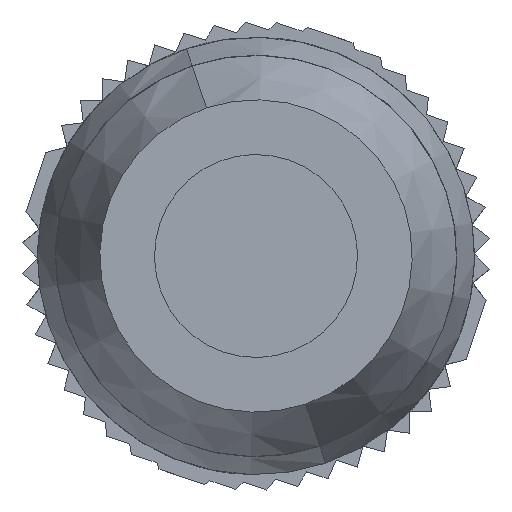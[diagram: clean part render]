
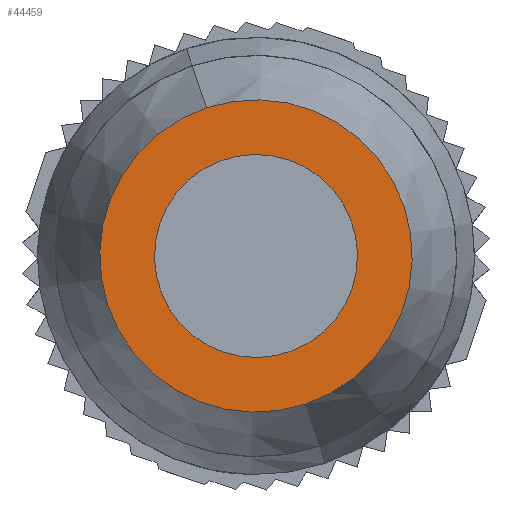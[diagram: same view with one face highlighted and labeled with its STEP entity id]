
A CAD part, left-side view. The second image highlights one B-rep face of the part: STEP entity #44459.
In plain terms, the highlighted planar face has unit normal (-1, 0, 0).
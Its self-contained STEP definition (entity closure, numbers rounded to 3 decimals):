
#2898 = VERTEX_POINT ( 'NONE', #18351 ) ;
#3109 = ORIENTED_EDGE ( 'NONE', *, *, #42784, .F. ) ;
#3540 = ORIENTED_EDGE ( 'NONE', *, *, #51324, .T. ) ;
#6818 = DIRECTION ( 'NONE',  ( 0., 0.318, 0.948 ) ) ;
#7232 = CARTESIAN_POINT ( 'NONE',  ( -11.925, 0., 0. ) ) ;
#7342 = CARTESIAN_POINT ( 'NONE',  ( -11.925, 0., 0. ) ) ;
#8287 = DIRECTION ( 'NONE',  ( 0., -0.318, -0.948 ) ) ;
#15634 = ORIENTED_EDGE ( 'NONE', *, *, #45734, .F. ) ;
#16002 = CARTESIAN_POINT ( 'NONE',  ( -11.925, 1.589, 4.741 ) ) ;
#16057 = CARTESIAN_POINT ( 'NONE',  ( -11.925, 0., 0. ) ) ;
#16093 = ORIENTED_EDGE ( 'NONE', *, *, #43251, .T. ) ;
#18351 = CARTESIAN_POINT ( 'NONE',  ( -11.925, -3.249, 0.084 ) ) ;
#18997 = AXIS2_PLACEMENT_3D ( 'NONE', #7342, #48411, #6818 ) ;
#19227 = PLANE ( 'NONE',  #27671 ) ;
#23081 = CIRCLE ( 'NONE', #45541, 3.25 ) ;
#24973 = VERTEX_POINT ( 'NONE', #16002 ) ;
#26916 = CARTESIAN_POINT ( 'NONE',  ( -11.925, 0., 0. ) ) ;
#27671 = AXIS2_PLACEMENT_3D ( 'NONE', #7232, #40409, #8287 ) ;
#28191 = DIRECTION ( 'NONE',  ( 1., 0., 0. ) ) ;
#28401 = CARTESIAN_POINT ( 'NONE',  ( -11.925, -1.589, -4.741 ) ) ;
#28454 = CIRCLE ( 'NONE', #18997, 5. ) ;
#28930 = VERTEX_POINT ( 'NONE', #46619 ) ;
#29794 = CARTESIAN_POINT ( 'NONE',  ( -11.925, 0., 0. ) ) ;
#31873 = CIRCLE ( 'NONE', #34894, 3.25 ) ;
#32370 = DIRECTION ( 'NONE',  ( 0., 1., -0.026 ) ) ;
#33631 = DIRECTION ( 'NONE',  ( 0., 1., -0.026 ) ) ;
#34894 = AXIS2_PLACEMENT_3D ( 'NONE', #16057, #28191, #32370 ) ;
#35072 = DIRECTION ( 'NONE',  ( 0., 0.318, 0.948 ) ) ;
#36341 = FACE_BOUND ( 'NONE', #38522, .T. ) ;
#38522 = EDGE_LOOP ( 'NONE', ( #16093, #3540 ) ) ;
#40409 = DIRECTION ( 'NONE',  ( -1., 0., 0. ) ) ;
#42784 = EDGE_CURVE ( 'NONE', #24973, #48589, #42915, .T. ) ;
#42915 = CIRCLE ( 'NONE', #45307, 5. ) ;
#43251 = EDGE_CURVE ( 'NONE', #28930, #2898, #31873, .T. ) ;
#43441 = FACE_OUTER_BOUND ( 'NONE', #45691, .T. ) ;
#44459 = ADVANCED_FACE ( 'NONE', ( #36341, #43441 ), #19227, .T. ) ;
#45307 = AXIS2_PLACEMENT_3D ( 'NONE', #26916, #51051, #35072 ) ;
#45541 = AXIS2_PLACEMENT_3D ( 'NONE', #29794, #50329, #33631 ) ;
#45691 = EDGE_LOOP ( 'NONE', ( #3109, #15634 ) ) ;
#45734 = EDGE_CURVE ( 'NONE', #48589, #24973, #28454, .T. ) ;
#46619 = CARTESIAN_POINT ( 'NONE',  ( -11.925, 3.249, -0.084 ) ) ;
#48411 = DIRECTION ( 'NONE',  ( 1., 0., 0. ) ) ;
#48589 = VERTEX_POINT ( 'NONE', #28401 ) ;
#50329 = DIRECTION ( 'NONE',  ( 1., 0., 0. ) ) ;
#51051 = DIRECTION ( 'NONE',  ( 1., 0., 0. ) ) ;
#51324 = EDGE_CURVE ( 'NONE', #2898, #28930, #23081, .T. ) ;
